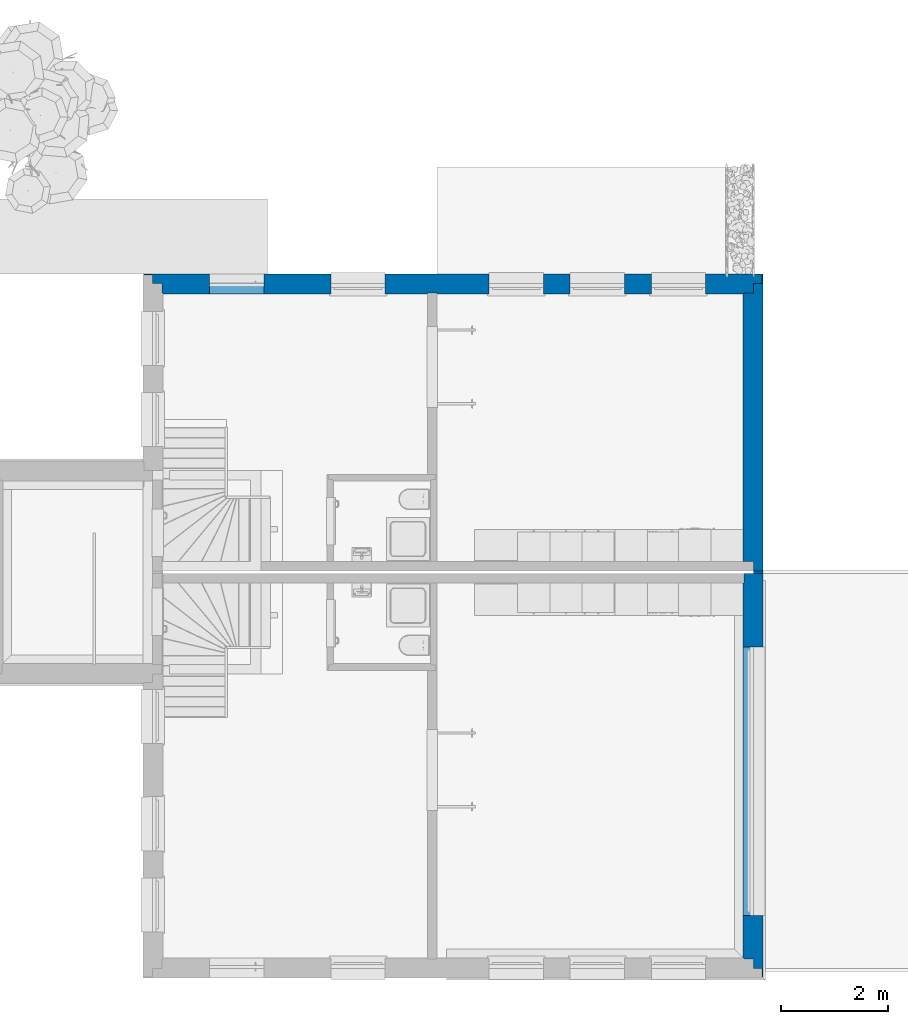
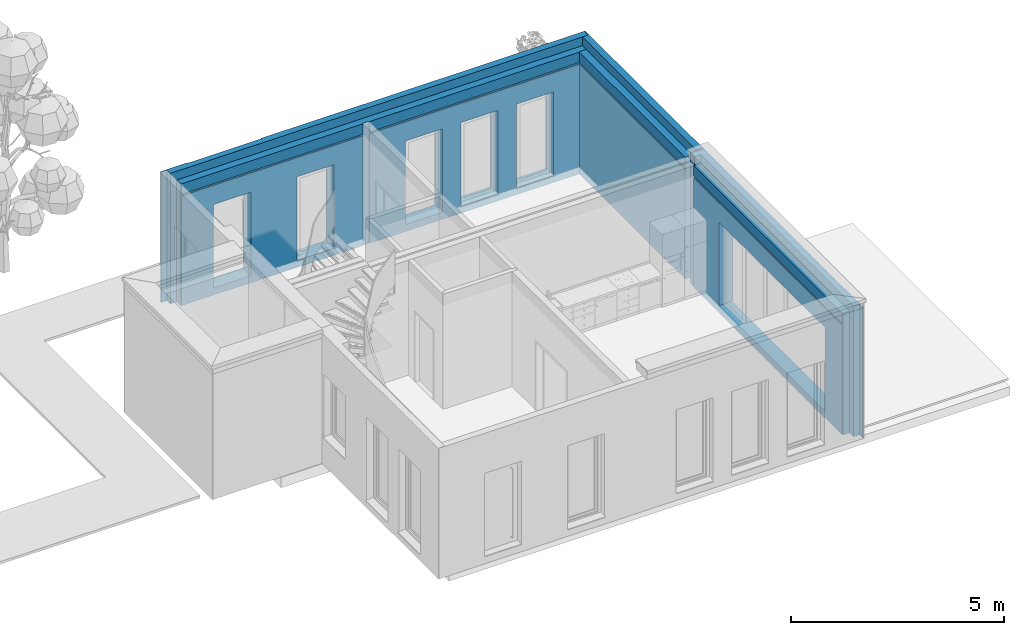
# One storey, part 9 of 28: 4 walls.
"""IFC4 building model written with IfcOpenShell, lengths in metres."""

from ifc_helpers import new_model, entity, si_unit, converted_unit, derived_unit, direction, frame, origin_with_axes, place, context, subcontext, project, spatial, triangles, material, constituent, constituent_set, type_object, element, save


model = new_model("IFC4")

# Units and contexts
model_context = context("Model", 3, precision=1e-05, world=origin_with_axes(), true_north=direction((-0.526213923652, 0.850352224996)))
body_context = subcontext(model_context, "Body", "Model", "MODEL_VIEW")
ifc_project = project(units=[si_unit("LENGTHUNIT", "METRE"), si_unit("AREAUNIT", "SQUARE_METRE"), si_unit("VOLUMEUNIT", "CUBIC_METRE"), converted_unit("PLANEANGLEUNIT", "DEGREE", entity("IfcPlaneAngleMeasure", 0.0174532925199), si_unit("PLANEANGLEUNIT", "RADIAN"), dimensions=[0, 0, 0, 0, 0, 0, 0]), si_unit("SOLIDANGLEUNIT", "STERADIAN"), converted_unit("TIMEUNIT", "Year", entity("IfcTimeMeasure", 31556926.0), si_unit("TIMEUNIT", "SECOND"), dimensions=[0, 0, 1, 0, 0, 0, 0]), si_unit("MASSUNIT", "GRAM", prefix="KILO"), si_unit("THERMODYNAMICTEMPERATUREUNIT", "DEGREE_CELSIUS"), si_unit("LUMINOUSINTENSITYUNIT", "LUMEN"), si_unit("ENERGYUNIT", "JOULE", prefix="MEGA"), derived_unit("THERMALCONDUCTANCEUNIT", [(si_unit("POWERUNIT", "WATT"), 1), (si_unit("LENGTHUNIT", "METRE"), -1), (si_unit("THERMODYNAMICTEMPERATUREUNIT", "KELVIN"), -1)]), derived_unit("SPECIFICHEATCAPACITYUNIT", [(si_unit("ENERGYUNIT", "JOULE"), 1), (si_unit("MASSUNIT", "GRAM", prefix="KILO"), -1), (si_unit("THERMODYNAMICTEMPERATUREUNIT", "KELVIN"), -1)]), derived_unit("MASSDENSITYUNIT", [(si_unit("MASSUNIT", "GRAM", prefix="KILO"), 1), (si_unit("VOLUMEUNIT", "CUBIC_METRE"), -1)])], contexts=[model_context])

# Site, building, storey, space
site_placement = place(None, origin_with_axes())
site = spatial("IfcSite", under=ifc_project, at=site_placement, Name="Gelände", CompositionType="ELEMENT")
building_placement = place(site_placement, origin_with_axes())
building = spatial("IfcBuilding", under=site, at=building_placement, Name="Haus vom Nikolaus", CompositionType="ELEMENT")
storey_placement = place(building_placement, origin_with_axes())
storey = spatial("IfcBuildingStorey", under=building, at=storey_placement, Name="EG", CompositionType="ELEMENT", Elevation=0.0)
space_placement = place(storey_placement, frame((-3.09538684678, 5.36483190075, 0.0), z_axis=(0.0, 0.0, 1.0), x_axis=(1.0, 0.0, 0.0)))
space = spatial("IfcSpace", under=storey, at=space_placement, Name="EG", CompositionType="ELEMENT")

# Walls
ifc_material_1 = material(Name="Verputz, Zement")
ifc_constituent_1 = constituent(ifc_material_1, Name="Component 1")
ifc_material_2 = material(Name="Dämmung, weich Mineralwolle 2")
ifc_constituent_2 = constituent(ifc_material_2, Name="Component 2")
ifc_material_3 = material(Name="MW Kalksandstein")
ifc_constituent_3 = constituent(ifc_material_3, Name="Component 3")
ifc_constituent_4 = constituent(ifc_material_1, Name="Component 4")
ifc_constituent_set_1 = constituent_set(constituents=[ifc_constituent_1, ifc_constituent_2, ifc_constituent_3, ifc_constituent_4], Name="WA | 2 Schichtig KS")
wall_type_1 = type_object("IfcWallType", Name="WA | 2 Schichtig KS 375", PredefinedType="NOTDEFINED")
wall_1_placement = place(space_placement, frame((14.1603844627, 2.05000017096, 0.0), z_axis=(0.0, 0.0, 1.0), x_axis=(0.0, -1.0, 0.0)))
element("IfcWall", 1, at=wall_1_placement, inside=space, type_object=wall_type_1, material=ifc_constituent_set_1, Name="Wand-005", context=body_context, shape_type="Tessellation", body=[
    triangles([(0.175, 0.375, 0.15), (7.50999995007, 0.375, 0.0), (0.0, 0.375, 0.0), (1.36239221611, 0.375, 2.6), (7.50999995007, 0.375, 3.75), (6.36239221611, 0.375, 2.6), (7.34999995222, 0.375, 0.2), (7.34999995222, 0.375, 0.15), (0.175, 0.375, 0.2), (0.0, 0.375, 3.75), (1.36239221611, 0.375, 0.2), (6.36239221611, 0.375, 0.2), (7.50999995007, 0.355, 0.0), (0.0, 0.355, 0.0), (0.0, 0.355, 3.75), (7.50999995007, 0.355, 3.75), (6.36239221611, 0.355, 0.2), (6.36239221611, 0.355, 2.6), (1.36239221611, 0.355, 2.6), (1.36239221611, 0.355, 0.2), (0.175, 0.355, 0.2), (0.175, 0.355, 0.15), (7.34999995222, 0.355, 0.15), (7.34999995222, 0.355, 0.2)], [[1, 2, 3], [4, 5, 6], [7, 2, 8], [9, 10, 4], [5, 4, 10], [9, 4, 11], [10, 9, 3], [9, 1, 3], [1, 8, 2], [7, 12, 6], [7, 6, 5], [2, 7, 5], [3, 13, 14], [3, 2, 13], [3, 15, 10], [3, 14, 15], [15, 5, 10], [15, 16, 5], [2, 16, 13], [2, 5, 16], [17, 6, 12], [17, 18, 6], [18, 4, 6], [18, 19, 4], [19, 11, 4], [19, 20, 11], [21, 11, 20], [21, 9, 11], [22, 9, 21], [22, 1, 9], [23, 1, 22], [23, 8, 1], [24, 8, 23], [24, 7, 8], [7, 17, 12], [7, 24, 17], [23, 14, 13], [24, 16, 18], [19, 16, 15], [24, 18, 17], [16, 24, 13], [24, 23, 13], [14, 21, 15], [21, 14, 22], [19, 21, 20], [23, 22, 14], [16, 19, 18], [21, 19, 15]], closed=True),
    triangles([(6.36239221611, 0.195, 2.6), (7.34999995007, 0.195, 0.0), (7.34999995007, 0.195, 3.75), (0.0, 0.195, 0.0), (6.36239221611, 0.195, 0.2), (1.36239221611, 0.195, 2.6), (0.0, 0.195, 3.75), (1.36239221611, 0.195, 0.2), (0.0, 0.355, 3.75), (0.0, 0.355, 0.0), (7.34999995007, 0.355, 0.0), (7.34999995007, 0.355, 3.75), (6.36239221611, 0.355, 0.2), (1.36239221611, 0.355, 0.2), (1.36239221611, 0.355, 2.6), (6.36239221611, 0.355, 2.6)], [[1, 2, 3], [4, 2, 5], [4, 6, 7], [4, 5, 8], [1, 3, 6], [6, 4, 8], [7, 6, 3], [2, 1, 5], [4, 9, 10], [4, 7, 9], [11, 4, 10], [11, 2, 4], [12, 2, 11], [12, 3, 2], [3, 9, 7], [3, 12, 9], [8, 13, 14], [8, 5, 13], [6, 14, 15], [6, 8, 14], [1, 15, 16], [1, 6, 15], [5, 16, 13], [5, 1, 16], [11, 10, 14], [11, 16, 12], [16, 11, 13], [12, 15, 9], [14, 10, 15], [15, 12, 16], [9, 15, 10], [11, 14, 13]], closed=True),
    triangles([(1.36239221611, 0.02, 0.2), (7.17499995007, 0.02, 0.0), (6.36239221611, 0.02, 0.2), (0.0, 0.02, 3.75), (0.0, 0.02, 0.0), (0.175, 0.02, 3.5), (7.17499995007, 0.02, 3.5), (1.36239221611, 0.02, 2.6), (0.175, 0.02, 3.75), (6.36239221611, 0.02, 2.6), (0.0, 0.195, 0.0), (7.17499995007, 0.195, 0.0), (7.17499995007, 0.195, 3.5), (0.175, 0.195, 3.5), (0.175, 0.195, 3.75), (0.0, 0.195, 3.75), (6.36239221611, 0.195, 0.2), (1.36239221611, 0.195, 0.2), (1.36239221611, 0.195, 2.6), (6.36239221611, 0.195, 2.6)], [[1, 2, 3], [4, 5, 6], [7, 6, 8], [5, 8, 6], [4, 6, 9], [10, 2, 7], [5, 2, 1], [10, 7, 8], [8, 5, 1], [2, 10, 3], [11, 2, 5], [11, 12, 2], [12, 7, 2], [12, 13, 7], [7, 14, 6], [7, 13, 14], [14, 9, 6], [9, 14, 15], [4, 15, 16], [4, 9, 15], [11, 4, 16], [11, 5, 4], [1, 17, 18], [1, 3, 17], [8, 18, 19], [8, 1, 18], [10, 19, 20], [10, 8, 19], [10, 17, 3], [17, 10, 20], [12, 11, 18], [19, 13, 20], [14, 16, 15], [20, 12, 17], [16, 14, 11], [14, 13, 19], [12, 20, 13], [19, 11, 14], [12, 18, 17], [19, 18, 11]], closed=True),
    triangles([(6.36239221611, 0.0, 2.6), (7.15499995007, 0.0, 0.0), (7.15499995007, 0.0, 3.15), (0.175, 0.0, 0.0), (6.36239221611, 0.0, 0.2), (1.36239221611, 0.0, 2.6), (0.175000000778, 0.0, 3.15), (1.36239221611, 0.0, 0.2), (0.175000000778, 0.02, 3.15), (0.175, 0.02, 0.0), (7.15499995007, 0.02, 0.0), (7.15499995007, 0.02, 3.15), (6.36239221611, 0.02, 0.2), (1.36239221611, 0.02, 0.2), (1.36239221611, 0.02, 2.6), (6.36239221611, 0.02, 2.6)], [[1, 2, 3], [4, 2, 5], [4, 6, 7], [4, 5, 8], [1, 3, 6], [6, 4, 8], [7, 6, 3], [2, 1, 5], [4, 9, 10], [4, 7, 9], [10, 2, 4], [10, 11, 2], [11, 3, 2], [11, 12, 3], [12, 7, 3], [7, 12, 9], [8, 13, 14], [8, 5, 13], [6, 14, 15], [6, 8, 14], [1, 15, 16], [1, 6, 15], [1, 13, 5], [13, 1, 16], [11, 10, 14], [16, 11, 13], [15, 12, 16], [11, 16, 12], [15, 10, 9], [12, 15, 9], [11, 14, 13], [15, 14, 10]], closed=True),
    triangles([(7.15499995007, 0.02, 3.5), (0.175000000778, 0.02, 3.2), (0.175, 0.02, 3.5), (7.15499995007, 0.02, 3.2), (0.175000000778, 0.0, 3.2), (7.15499995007, 0.0, 3.2), (0.175, 0.0, 3.5), (7.15499995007, 0.0, 3.5)], [[1, 2, 3], [2, 1, 4], [4, 5, 2], [4, 6, 5], [3, 5, 7], [5, 3, 2], [7, 1, 3], [7, 8, 1], [1, 6, 4], [1, 8, 6], [8, 5, 6], [8, 7, 5]], closed=True),
])
ifc_constituent_5 = constituent(ifc_material_1, Name="Component 1")
ifc_constituent_6 = constituent(ifc_material_2, Name="Component 2")
ifc_constituent_7 = constituent(ifc_material_3, Name="Component 3")
ifc_constituent_8 = constituent(ifc_material_1, Name="Component 4")
ifc_constituent_set_2 = constituent_set(constituents=[ifc_constituent_5, ifc_constituent_6, ifc_constituent_7, ifc_constituent_8], Name="WA | 2 Schichtig KS")
wall_2_placement = place(space_placement, frame((3.35538443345, 7.25500015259, 0.0), z_axis=(0.0, 0.0, 1.0), x_axis=(1.0, 0.0, 0.0)))
element("IfcWall", 2, at=wall_2_placement, inside=space, type_object=wall_type_1, material=ifc_constituent_set_2, Name="Wand-009", context=body_context, shape_type="Tessellation", body=[
    triangles([(8.59500002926, 0.355, 2.6), (9.09500002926, 0.355, 0.2), (9.09500002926, 0.355001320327, 2.6), (0.870000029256, 0.355, 2.6), (-0.355, 0.355, 3.75), (-0.355, 0.355, 0.0), (3.13000002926, 0.355001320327, 0.2), (1.88000002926, 0.355, 0.2), (5.10500002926, 0.355, 0.15), (4.14000002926, 0.355001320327, 0.2), (0.375000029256, 0.355001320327, 3.6), (0.375000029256, 0.355001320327, 3.75), (7.08500002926, 0.355, 2.6), (2.37500002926, 0.355001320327, 3.75), (6.07500002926, 0.355, 2.6), (3.13000002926, 0.355001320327, 2.6), (2.37500002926, 0.355001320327, 3.6), (11.0000000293, 0.355, 0.2), (11.1800000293, 0.355, 3.75), (10.1050000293, 0.355001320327, 2.6), (10.1050000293, 0.355, 0.2), (11.1800000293, 0.355, 0.0), (11.0000000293, 0.355, 0.15), (5.10500002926, 0.355, 0.2), (6.07500002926, 0.355, 0.2), (7.58500002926, 0.355, 0.2), (7.58500002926, 0.355, 2.6), (7.08500002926, 0.355, 0.2), (8.59500002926, 0.355, 0.2), (4.14000002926, 0.355001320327, 2.6), (0.870000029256, 0.355, 0.2), (1.88000002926, 0.355, 2.6), (-0.355, 0.375, 3.75), (0.375000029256, 0.375, 3.75), (-0.355, 0.375, 0.0), (11.1800000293, 0.375, 0.0), (11.1800000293, 0.375, 3.75), (2.37500002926, 0.375, 3.75), (2.37500002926, 0.375, 3.6), (0.375000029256, 0.375, 3.6), (8.59500002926, 0.375, 0.2), (9.09500002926, 0.375, 0.2), (9.09500002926, 0.375, 2.6), (10.1050000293, 0.375, 2.6), (10.1050000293, 0.375, 0.2), (11.0000000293, 0.375, 0.2), (11.0000000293, 0.375, 0.15), (5.10500002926, 0.375, 0.15), (5.10500002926, 0.375, 0.2), (6.07500002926, 0.375, 0.2), (6.07500002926, 0.375, 2.6), (7.08500002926, 0.375, 2.6), (7.08500002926, 0.375, 0.2), (7.58500002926, 0.375, 0.2), (7.58500002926, 0.375, 2.6), (8.59500002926, 0.375, 2.6), (3.13000002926, 0.375, 0.2), (3.13000002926, 0.375, 2.6), (4.14000002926, 0.375, 2.6), (4.14000002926, 0.375, 0.2), (0.870000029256, 0.375, 0.2), (0.870000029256, 0.375, 2.6), (1.88000002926, 0.375, 2.6), (1.88000002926, 0.375, 0.2)], [[1, 2, 3], [4, 5, 6], [6, 7, 8], [6, 9, 10], [5, 11, 12], [13, 14, 15], [16, 14, 17], [18, 19, 20], [3, 20, 19], [18, 20, 21], [19, 18, 22], [18, 23, 22], [10, 9, 24], [15, 24, 25], [6, 22, 9], [14, 13, 19], [4, 17, 11], [26, 27, 13], [23, 9, 22], [26, 13, 28], [1, 19, 27], [13, 27, 19], [2, 1, 29], [19, 1, 3], [30, 15, 14], [4, 6, 31], [10, 24, 30], [30, 14, 16], [15, 30, 24], [6, 10, 7], [32, 17, 4], [5, 4, 11], [32, 7, 16], [17, 32, 16], [6, 8, 31], [32, 8, 7], [12, 33, 5], [33, 12, 34], [35, 5, 33], [35, 6, 5], [35, 22, 6], [35, 36, 22], [36, 19, 22], [36, 37, 19], [37, 14, 19], [37, 38, 14], [17, 38, 39], [17, 14, 38], [17, 40, 11], [17, 39, 40], [11, 34, 12], [11, 40, 34], [41, 2, 29], [41, 42, 2], [42, 3, 2], [3, 42, 43], [3, 44, 20], [3, 43, 44], [20, 45, 21], [20, 44, 45], [18, 45, 46], [18, 21, 45], [18, 47, 23], [18, 46, 47], [23, 48, 9], [23, 47, 48], [9, 49, 24], [9, 48, 49], [25, 49, 50], [25, 24, 49], [51, 25, 50], [51, 15, 25], [52, 15, 51], [52, 13, 15], [53, 13, 52], [53, 28, 13], [54, 28, 53], [54, 26, 28], [54, 27, 26], [54, 55, 27], [55, 1, 27], [55, 56, 1], [56, 29, 1], [56, 41, 29], [16, 57, 58], [16, 7, 57], [30, 58, 59], [30, 16, 58], [10, 59, 60], [10, 30, 59], [7, 60, 57], [7, 10, 60], [4, 61, 62], [4, 31, 61], [32, 62, 63], [32, 4, 62], [8, 63, 64], [8, 32, 63], [31, 64, 61], [31, 8, 64], [40, 33, 34], [43, 37, 44], [48, 47, 36], [36, 35, 48], [63, 39, 58], [62, 33, 40], [44, 46, 45], [36, 46, 37], [41, 43, 42], [46, 44, 37], [55, 37, 56], [56, 37, 43], [53, 55, 54], [52, 37, 55], [41, 56, 43], [37, 52, 38], [49, 51, 50], [51, 38, 52], [53, 52, 55], [59, 38, 51], [57, 35, 64], [36, 47, 46], [59, 49, 60], [64, 63, 58], [60, 49, 48], [57, 60, 48], [58, 38, 59], [49, 59, 51], [38, 58, 39], [64, 58, 57], [33, 62, 35], [48, 35, 57], [61, 64, 35], [62, 40, 63], [39, 63, 40], [35, 62, 61]], closed=True),
    triangles([(-0.195, 0.195, 0.0), (11.1600000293, 0.195, 0.0), (8.59500002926, 0.195, 0.2), (1.88000002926, 0.195, 0.2), (3.13000002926, 0.195, 0.2), (1.88000002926, 0.195, 2.6), (4.14000002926, 0.195, 2.6), (-0.195, 0.195, 3.75), (3.13000002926, 0.195, 2.6), (0.870000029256, 0.195, 2.6), (0.870000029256, 0.195, 0.2), (6.07500002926, 0.195, 0.2), (6.07500002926, 0.195, 2.6), (4.14000002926, 0.195, 0.2), (7.58500002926, 0.195, 2.6), (7.08500002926, 0.195, 2.6), (7.58500002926, 0.195, 0.2), (7.08500002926, 0.195, 0.2), (11.1600000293, 0.195, 3.75), (10.1050000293, 0.195, 0.2), (10.1050000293, 0.195, 2.6), (9.09500002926, 0.195, 2.6), (8.59500002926, 0.195, 2.6), (9.09500002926, 0.195, 0.2), (-0.195, 0.355, 3.75), (-0.195, 0.355, 0.0), (11.1600000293, 0.355, 0.0), (11.1600000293, 0.355, 3.75), (3.13000002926, 0.355, 0.2), (3.13000002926, 0.355, 2.6), (4.14000002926, 0.355, 2.6), (4.14000002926, 0.355, 0.2), (6.07500002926, 0.355, 0.2), (7.08500002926, 0.355, 0.2), (6.07500002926, 0.355, 2.6), (7.08500002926, 0.355, 2.6), (8.59500002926, 0.355, 2.6), (8.59500002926, 0.355, 0.2), (7.58500002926, 0.355, 0.2), (7.58500002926, 0.355, 2.6), (10.1050000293, 0.355, 2.6), (9.09500002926, 0.355, 2.6), (10.1050000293, 0.355, 0.2), (9.09500002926, 0.355, 0.2), (0.870000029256, 0.355, 0.2), (0.870000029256, 0.355, 2.6), (1.88000002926, 0.355, 2.6), (1.88000002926, 0.355, 0.2)], [[1, 2, 3], [4, 5, 6], [7, 8, 9], [10, 1, 11], [12, 13, 7], [13, 8, 7], [1, 14, 5], [12, 7, 14], [15, 16, 17], [1, 12, 14], [1, 18, 12], [16, 19, 13], [8, 13, 19], [20, 2, 21], [17, 16, 18], [22, 19, 23], [1, 17, 18], [1, 3, 17], [15, 23, 19], [16, 15, 19], [3, 22, 23], [21, 19, 22], [24, 3, 2], [19, 21, 2], [24, 2, 20], [3, 24, 22], [6, 9, 8], [1, 10, 8], [6, 8, 10], [9, 6, 5], [1, 4, 11], [1, 5, 4], [1, 25, 26], [1, 8, 25], [2, 26, 27], [26, 2, 1], [28, 2, 27], [28, 19, 2], [19, 25, 8], [19, 28, 25], [9, 29, 30], [9, 5, 29], [7, 30, 31], [7, 9, 30], [14, 31, 32], [14, 7, 31], [5, 32, 29], [5, 14, 32], [33, 18, 34], [33, 12, 18], [35, 12, 33], [35, 13, 12], [36, 13, 35], [36, 16, 13], [34, 16, 36], [34, 18, 16], [37, 3, 23], [37, 38, 3], [38, 17, 3], [38, 39, 17], [39, 15, 17], [39, 40, 15], [40, 23, 15], [40, 37, 23], [22, 41, 21], [22, 42, 41], [21, 43, 20], [21, 41, 43], [20, 44, 24], [20, 43, 44], [24, 42, 22], [24, 44, 42], [10, 45, 46], [10, 11, 45], [6, 46, 47], [6, 10, 46], [4, 47, 48], [4, 6, 47], [11, 48, 45], [11, 4, 48], [27, 26, 29], [25, 28, 35], [27, 29, 32], [48, 47, 30], [35, 32, 31], [27, 32, 33], [25, 35, 31], [31, 30, 25], [40, 36, 28], [33, 32, 35], [27, 33, 34], [40, 28, 37], [28, 36, 35], [41, 27, 43], [40, 39, 34], [36, 40, 34], [38, 27, 39], [34, 39, 27], [44, 38, 42], [42, 38, 37], [27, 41, 28], [42, 37, 28], [42, 28, 41], [44, 43, 27], [38, 44, 27], [48, 30, 29], [46, 26, 25], [48, 29, 26], [45, 48, 26], [46, 25, 47], [30, 47, 25], [26, 46, 45]], closed=True),
    triangles([(-0.02, 0.02, 0.0), (11.0000000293, 0.02, 0.0), (8.59500002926, 0.02, 0.2), (1.88000002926, 0.02, 0.2), (3.13000002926, 0.02, 0.2), (1.88000002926, 0.02, 2.6), (4.14000002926, 0.02, 2.6), (-0.02, 0.02, 3.5), (3.13000002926, 0.02, 2.6), (0.870000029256, 0.02, 2.6), (0.870000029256, 0.02, 0.2), (6.07500002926, 0.02, 0.2), (6.07500002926, 0.02, 2.6), (4.14000002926, 0.02, 0.2), (7.58500002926, 0.02, 2.6), (7.08500002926, 0.02, 2.6), (7.58500002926, 0.02, 0.2), (7.08500002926, 0.02, 0.2), (11.0000000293, 0.02, 3.5), (10.1050000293, 0.02, 0.2), (10.1050000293, 0.02, 2.6), (9.09500002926, 0.02, 2.6), (8.59500002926, 0.02, 2.6), (9.09500002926, 0.02, 0.2), (-0.02, 0.195, 0.0), (-0.02, 0.19500000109, 3.5), (11.0000000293, 0.195, 0.0), (11.0000000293, 0.19500000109, 3.5), (3.13000002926, 0.195, 0.2), (3.13000002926, 0.195, 2.6), (4.14000002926, 0.195, 2.6), (4.14000002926, 0.195, 0.2), (6.07500002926, 0.195, 0.2), (7.08500002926, 0.195, 0.2), (6.07500002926, 0.195, 2.6), (7.08500002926, 0.195, 2.6), (8.59500002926, 0.195, 2.6), (8.59500002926, 0.195, 0.2), (7.58500002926, 0.195, 0.2), (7.58500002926, 0.195, 2.6), (10.1050000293, 0.195, 2.6), (9.09500002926, 0.195, 2.6), (10.1050000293, 0.195, 0.2), (9.09500002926, 0.195, 0.2), (0.870000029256, 0.195, 0.2), (0.870000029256, 0.195, 2.6), (1.88000002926, 0.195, 2.6), (1.88000002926, 0.195, 0.2)], [[1, 2, 3], [4, 5, 6], [1, 5, 4], [7, 8, 9], [10, 1, 11], [12, 13, 7], [13, 8, 7], [1, 14, 5], [12, 7, 14], [15, 16, 17], [1, 12, 14], [1, 18, 12], [16, 19, 13], [8, 13, 19], [20, 2, 21], [17, 16, 18], [22, 19, 23], [1, 17, 18], [1, 3, 17], [15, 23, 19], [16, 15, 19], [3, 22, 23], [21, 19, 22], [24, 3, 2], [19, 21, 2], [24, 2, 20], [3, 24, 22], [6, 9, 8], [1, 10, 8], [6, 8, 10], [9, 6, 5], [4, 11, 1], [8, 25, 1], [25, 8, 26], [25, 2, 1], [25, 27, 2], [27, 19, 2], [27, 28, 19], [8, 28, 26], [8, 19, 28], [9, 29, 30], [9, 5, 29], [7, 30, 31], [7, 9, 30], [14, 31, 32], [14, 7, 31], [5, 32, 29], [5, 14, 32], [33, 18, 34], [33, 12, 18], [35, 12, 33], [35, 13, 12], [36, 13, 35], [36, 16, 13], [34, 16, 36], [34, 18, 16], [37, 3, 23], [37, 38, 3], [38, 17, 3], [38, 39, 17], [39, 15, 17], [39, 40, 15], [40, 23, 15], [40, 37, 23], [22, 41, 21], [22, 42, 41], [21, 43, 20], [21, 41, 43], [20, 44, 24], [20, 43, 44], [24, 42, 22], [24, 44, 42], [10, 45, 46], [10, 11, 45], [6, 46, 47], [6, 10, 46], [4, 47, 48], [4, 6, 47], [11, 48, 45], [11, 4, 48], [48, 47, 30], [27, 25, 29], [27, 32, 33], [27, 29, 32], [30, 26, 31], [35, 32, 31], [35, 26, 28], [26, 35, 31], [27, 33, 34], [35, 33, 32], [27, 34, 39], [36, 35, 28], [40, 39, 34], [40, 34, 36], [41, 27, 43], [40, 36, 28], [37, 40, 28], [27, 38, 44], [27, 39, 38], [44, 38, 42], [42, 37, 28], [27, 41, 28], [42, 28, 41], [37, 42, 38], [44, 43, 27], [48, 30, 29], [46, 25, 26], [48, 29, 25], [45, 48, 25], [46, 26, 47], [30, 47, 26], [25, 46, 45]], closed=True),
    triangles([(5.10500002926, 0.0, 0.0), (10.8250000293, 0.0, 0.0), (9.09500002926, 0.0, 0.2), (6.07500002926, 0.0, 2.6), (6.07500002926, 0.0, 0.2), (7.58500002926, 0.0, 2.6), (5.10500002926, 0.0, 3.15), (7.08500002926, 0.0, 2.6), (10.8250000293, 0.0, 3.15), (8.59500002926, 0.0, 2.6), (8.59500002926, 0.0, 0.2), (7.08500002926, 0.0, 0.2), (7.58500002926, 0.0, 0.2), (9.09500002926, 0.0, 2.6), (10.1050000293, 0.0, 2.6), (10.1050000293, 0.0, 0.2), (10.8250000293, 0.02, 0.0), (10.8250000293, 0.0200000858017, 3.15), (5.10500002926, 0.0200000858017, 3.15), (5.10500002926, 0.02, 0.0), (7.08500002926, 0.0200000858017, 2.6), (7.08500002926, 0.0200000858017, 0.2), (6.07500002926, 0.0200000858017, 0.2), (6.07500002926, 0.0200000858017, 2.6), (8.59500002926, 0.0200000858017, 2.6), (7.58500002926, 0.0200000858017, 2.6), (8.59500002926, 0.0200000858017, 0.2), (7.58500002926, 0.0200000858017, 0.2), (9.09500002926, 0.02, 0.2), (9.09500002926, 0.02, 2.6), (10.1050000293, 0.02, 2.6), (10.1050000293, 0.02, 0.2)], [[1, 2, 3], [4, 1, 5], [6, 7, 8], [9, 6, 10], [9, 7, 6], [3, 10, 11], [12, 5, 1], [4, 8, 7], [1, 4, 7], [13, 8, 12], [1, 13, 12], [14, 10, 3], [1, 11, 13], [8, 13, 6], [1, 3, 11], [15, 9, 14], [16, 2, 15], [10, 14, 9], [9, 15, 2], [2, 16, 3], [9, 17, 18], [9, 2, 17], [18, 7, 9], [18, 19, 7], [20, 7, 19], [7, 20, 1], [2, 20, 17], [2, 1, 20], [21, 12, 8], [21, 22, 12], [22, 5, 12], [22, 23, 5], [23, 4, 5], [23, 24, 4], [24, 8, 4], [24, 21, 8], [6, 25, 10], [6, 26, 25], [10, 27, 11], [10, 25, 27], [11, 28, 13], [11, 27, 28], [13, 26, 6], [13, 28, 26], [14, 29, 30], [14, 3, 29], [15, 30, 31], [15, 14, 30], [16, 31, 32], [16, 15, 31], [3, 32, 29], [3, 16, 32], [22, 20, 23], [29, 17, 27], [19, 18, 25], [24, 19, 21], [24, 23, 20], [19, 24, 20], [17, 22, 28], [17, 20, 22], [26, 22, 21], [32, 17, 29], [19, 25, 26], [19, 26, 21], [26, 28, 22], [17, 28, 27], [29, 27, 25], [17, 31, 18], [30, 29, 25], [31, 17, 32], [30, 18, 31], [18, 30, 25]], closed=True),
    triangles([(3.13000002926, 0.0, 0.2), (4.93000002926, 0.0, 0.0), (4.14000002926, 0.0, 0.2), (4.14000002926, 0.0, 2.6), (4.93000002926, 0.0, 3.15), (3.13000002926, 0.0, 2.6), (1.88000002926, 0.0, 2.6), (0.0, 0.0, 3.15), (0.870000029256, 0.0, 2.6), (0.0, 0.0, 0.0), (0.870000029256, 0.0, 0.2), (1.88000002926, 0.0, 0.2), (4.93000002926, 0.02, 0.0), (0.0, 0.02, 0.0), (4.93000002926, 0.0200000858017, 3.15), (0.0, 0.0200000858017, 3.15), (4.14000002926, 0.0200000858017, 2.6), (3.13000002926, 0.0200000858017, 2.6), (4.14000002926, 0.0200000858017, 0.2), (3.13000002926, 0.0200000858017, 0.2), (0.870000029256, 0.0200000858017, 0.2), (0.870000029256, 0.0200000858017, 2.6), (1.88000002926, 0.0200000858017, 2.6), (1.88000002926, 0.0200000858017, 0.2)], [[1, 2, 3], [4, 5, 6], [7, 5, 8], [9, 10, 11], [4, 3, 2], [5, 4, 2], [12, 1, 7], [10, 2, 1], [7, 1, 6], [10, 9, 8], [5, 7, 6], [7, 8, 9], [10, 12, 11], [10, 1, 12], [13, 10, 14], [13, 2, 10], [5, 13, 15], [13, 5, 2], [5, 16, 8], [5, 15, 16], [8, 14, 10], [8, 16, 14], [6, 17, 4], [6, 18, 17], [4, 19, 3], [4, 17, 19], [3, 20, 1], [3, 19, 20], [1, 18, 6], [1, 20, 18], [9, 21, 22], [9, 11, 21], [7, 22, 23], [7, 9, 22], [12, 23, 24], [12, 7, 23], [11, 24, 21], [11, 12, 24], [13, 14, 24], [17, 13, 19], [18, 15, 17], [13, 17, 15], [23, 15, 18], [13, 20, 19], [24, 18, 20], [22, 14, 16], [13, 24, 20], [21, 24, 14], [15, 23, 16], [24, 23, 18], [14, 22, 21], [23, 22, 16]], closed=True),
    triangles([(4.93000002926, 0.02, 3.5), (4.93000002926, 0.0, 3.2), (4.93000002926, 0.0200000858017, 3.2), (4.93000002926, 0.0, 3.5), (0.0, 0.0200000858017, 3.2), (0.0, 0.0, 3.2), (0.0, 0.02, 3.5), (0.0, 0.0, 3.5)], [[1, 2, 3], [1, 4, 2], [2, 5, 3], [2, 6, 5], [1, 5, 7], [5, 1, 3], [7, 4, 1], [7, 8, 4], [4, 6, 2], [4, 8, 6], [7, 6, 8], [6, 7, 5]], closed=True),
    triangles([(10.8250000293, 0.02, 3.5), (10.8250000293, 0.0, 3.2), (10.8250000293, 0.0200000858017, 3.2), (10.8250000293, 0.0, 3.5), (5.10500002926, 0.0200000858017, 3.2), (5.10500002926, 0.0, 3.2), (5.10500002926, 0.02, 3.5), (5.10500002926, 0.0, 3.5)], [[1, 2, 3], [1, 4, 2], [2, 5, 3], [2, 6, 5], [1, 5, 7], [5, 1, 3], [7, 4, 1], [7, 8, 4], [4, 6, 2], [4, 8, 6], [7, 6, 8], [6, 7, 5]], closed=True),
])
ifc_constituent_9 = constituent(ifc_material_1, Name="Component 1")
ifc_constituent_10 = constituent(ifc_material_2, Name="Component 2")
ifc_constituent_11 = constituent(ifc_material_3, Name="Component 3")
ifc_constituent_12 = constituent(ifc_material_1, Name="Component 4")
ifc_constituent_set_3 = constituent_set(constituents=[ifc_constituent_9, ifc_constituent_10, ifc_constituent_11, ifc_constituent_12], Name="WA | 2 Schichtig KS")
wall_3_placement = place(space_placement, frame((14.1603844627, 7.25500015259, 0.0), z_axis=(0.0, 0.0, 1.0), x_axis=(0.0, -1.0, 0.0)))
element("IfcWall", 3, at=wall_3_placement, inside=space, type_object=wall_type_1, material=ifc_constituent_set_3, Name="Wand-004", context=body_context, shape_type="Tessellation", body=[
    triangles([(-0.355, 0.355, 3.75), (5.15499994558, 0.375, 3.75), (-0.355, 0.375, 3.75), (5.15499994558, 0.355, 3.75), (5.15499994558, 0.375, 0.0), (-0.355, 0.375, 0.0), (-0.355, 0.355, 0.0), (5.15499994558, 0.355, 0.0)], [[1, 2, 3], [1, 4, 2], [3, 5, 6], [3, 2, 5], [6, 1, 3], [6, 7, 1], [7, 4, 1], [7, 8, 4], [5, 4, 8], [5, 2, 4], [6, 8, 7], [6, 5, 8]], closed=True),
    triangles([(5.15499994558, 0.195, 3.75), (-0.195, 0.355, 3.75), (-0.195, 0.195, 3.75), (5.15499994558, 0.355, 3.75), (5.15499994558, 0.355, 0.0), (-0.195, 0.355, 0.0), (-0.195, 0.195, 0.0), (5.15499994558, 0.195, 0.0)], [[1, 2, 3], [2, 1, 4], [2, 5, 6], [2, 4, 5], [6, 3, 2], [6, 7, 3], [7, 1, 3], [7, 8, 1], [4, 8, 5], [8, 4, 1], [6, 8, 7], [6, 5, 8]], closed=True),
    triangles([(-0.02, 0.195, 0.0), (-0.02, 0.02, 3.5), (-0.02, 0.195, 3.5), (-0.02, 0.02, 0.0), (4.97999994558, 0.195, 3.5), (4.97999994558, 0.02, 3.5), (4.97999994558, 0.195, 0.0), (4.97999994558, 0.02, 0.0)], [[1, 2, 3], [1, 4, 2], [2, 5, 3], [2, 6, 5], [7, 3, 5], [7, 1, 3], [4, 7, 8], [4, 1, 7], [4, 6, 2], [4, 8, 6], [7, 6, 8], [6, 7, 5]], closed=True),
    triangles([(0.0, 0.02, 0.0), (0.0, 0.0, 3.15), (0.0, 0.02, 3.15), (0.0, 0.0, 0.0), (4.97999998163, 0.02, 3.15), (4.97999998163, 0.0, 3.15), (4.97999994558, 0.02, 0.0), (4.97999994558, 0.0, 0.0)], [[1, 2, 3], [1, 4, 2], [2, 5, 3], [2, 6, 5], [7, 3, 5], [7, 1, 3], [4, 7, 8], [4, 1, 7], [8, 2, 4], [2, 8, 6], [8, 5, 6], [8, 7, 5]], closed=True),
    triangles([(4.97999994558, 0.02, 3.5), (0.0, 0.02, 3.2), (0.0, 0.02, 3.5), (4.97999998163, 0.02, 3.2), (0.0, 0.0, 3.2), (4.97999998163, 0.0, 3.2), (0.0, 0.0, 3.5), (4.97999994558, 0.0, 3.5)], [[1, 2, 3], [2, 1, 4], [4, 5, 2], [4, 6, 5], [7, 2, 5], [7, 3, 2], [7, 1, 3], [7, 8, 1], [1, 6, 4], [1, 8, 6], [8, 5, 6], [8, 7, 5]], closed=True),
])
ifc_constituent_13 = constituent(ifc_material_2, Name="Component 1")
ifc_material_4 = material(Name="Verputz, Kalkzement")
ifc_constituent_14 = constituent(ifc_material_4, Name="Component 2")
ifc_constituent_set_4 = constituent_set(constituents=[ifc_constituent_13, ifc_constituent_14], Name="WA\xa0| Wärmedämmung+Putz")
wall_type_2 = type_object("IfcWallType", Name="WA\xa0| Wärmedämmung+Putz 180", PredefinedType="NOTDEFINED")
wall_4_placement = place(space_placement, frame((14.5353844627, 2.05000017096, 0.0), z_axis=(0.0, 0.0, 1.0), x_axis=(0.0, 1.0, 0.0)))
element("IfcWall", 4, at=wall_4_placement, inside=space, type_object=wall_type_2, material=ifc_constituent_set_4, Name="Wand-010", context=body_context, shape_type="Tessellation", body=[
    triangles([(0.0, 0.02, 0.0), (0.05, 0.18, 0.0), (0.05, 0.02, 0.0), (0.0, 0.18, 0.0), (0.05, 0.02, 3.75), (0.05, 0.18, 3.75), (0.0, 0.02, 3.75), (0.0, 0.18, 3.75)], [[1, 2, 3], [1, 4, 2], [5, 2, 6], [5, 3, 2], [7, 3, 5], [7, 1, 3], [7, 4, 1], [7, 8, 4], [4, 6, 2], [4, 8, 6], [8, 5, 6], [8, 7, 5]], closed=True),
    triangles([(0.0, 0.0, 0.0), (0.05, 0.02, 0.0), (0.05, 0.0, 0.0), (0.0, 0.02, 0.0), (0.05, 0.0, 3.75), (0.05, 0.02, 3.75), (0.0, 0.0, 3.75), (0.0, 0.02, 3.75)], [[1, 2, 3], [1, 4, 2], [5, 2, 6], [5, 3, 2], [7, 3, 5], [7, 1, 3], [7, 4, 1], [7, 8, 4], [4, 6, 2], [4, 8, 6], [8, 5, 6], [8, 7, 5]], closed=True),
])

save(model, "model.ifc")
